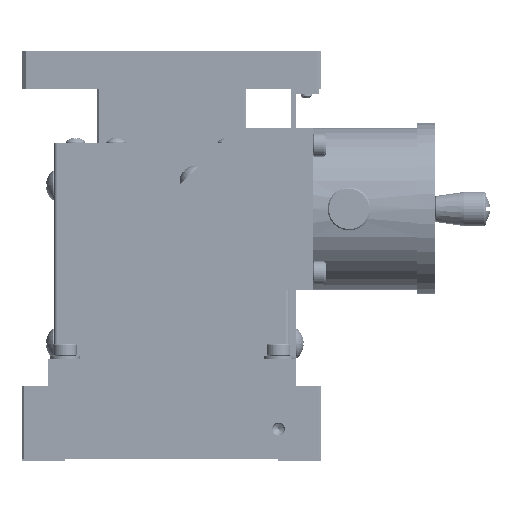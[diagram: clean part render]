
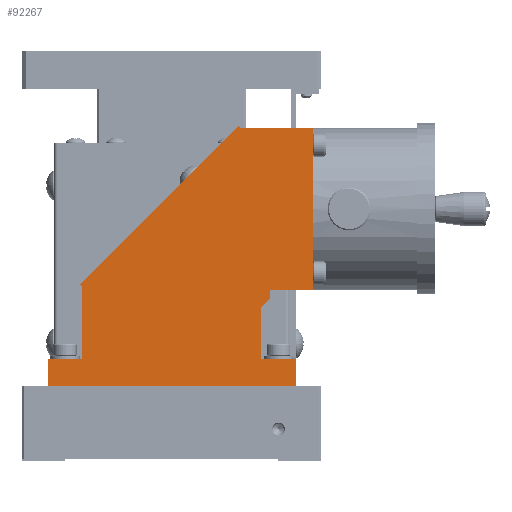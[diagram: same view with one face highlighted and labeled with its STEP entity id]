
A CAD part, left-side view. The second image highlights one B-rep face of the part: STEP entity #92267.
In plain terms, the highlighted planar face has unit normal (-1, 0, 0) as drawn and (1, 0, 0) by its records, which use the part's own axes.
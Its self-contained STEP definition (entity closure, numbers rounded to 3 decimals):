
#123 = LINE ( 'NONE', #128, #11075 ) ;
#128 = CARTESIAN_POINT ( 'NONE',  ( 79.8, -29., -24. ) ) ;
#145 = CARTESIAN_POINT ( 'NONE',  ( 79.8, 21., -36. ) ) ;
#161 = DIRECTION ( 'NONE',  ( 0., 1., 0. ) ) ;
#168 = LINE ( 'NONE', #145, #11102 ) ;
#183 = DIRECTION ( 'NONE',  ( 0., 0., -1. ) ) ;
#206 = CARTESIAN_POINT ( 'NONE',  ( 79.8, 21., -41. ) ) ;
#217 = LINE ( 'NONE', #206, #11023 ) ;
#254 = DIRECTION ( 'NONE',  ( 0., 0.707, -0.707 ) ) ;
#280 = CARTESIAN_POINT ( 'NONE',  ( 79.8, 21.354, -41.354 ) ) ;
#283 = LINE ( 'NONE', #280, #10984 ) ;
#323 = DIRECTION ( 'NONE',  ( 0., -0.707, -0.707 ) ) ;
#353 = LINE ( 'NONE', #358, #10935 ) ;
#358 = CARTESIAN_POINT ( 'NONE',  ( 79.8, -15.628, -78.335 ) ) ;
#394 = DIRECTION ( 'NONE',  ( 0., -0.707, 0.707 ) ) ;
#481 = LINE ( 'NONE', #486, #10874 ) ;
#486 = CARTESIAN_POINT ( 'NONE',  ( 79.8, -19.5, -81.5 ) ) ;
#489 = DIRECTION ( 'NONE',  ( 0., -0.707, -0.707 ) ) ;
#494 = CARTESIAN_POINT ( 'NONE',  ( 79.8, -23., -78. ) ) ;
#519 = LINE ( 'NONE', #494, #10839 ) ;
#540 = CARTESIAN_POINT ( 'NONE',  ( 79.8, -14., -78. ) ) ;
#556 = LINE ( 'NONE', #540, #10822 ) ;
#559 = DIRECTION ( 'NONE',  ( 0., -1., 0. ) ) ;
#582 = DIRECTION ( 'NONE',  ( 0., -1., 0. ) ) ;
#699 = CARTESIAN_POINT ( 'NONE',  ( 79.8, -33., -40. ) ) ;
#732 = LINE ( 'NONE', #699, #10736 ) ;
#746 = DIRECTION ( 'NONE',  ( 0., 1., 0. ) ) ;
#760 = LINE ( 'NONE', #766, #10705 ) ;
#766 = CARTESIAN_POINT ( 'NONE',  ( 79.8, -23., -78. ) ) ;
#769 = DIRECTION ( 'NONE',  ( 0., 0., 1. ) ) ;
#840 = LINE ( 'NONE', #881, #10619 ) ;
#881 = CARTESIAN_POINT ( 'NONE',  ( 79.8, -23., -38. ) ) ;
#883 = DIRECTION ( 'NONE',  ( 0., -0.707, -0.707 ) ) ;
#885 = CARTESIAN_POINT ( 'NONE',  ( 79.8, -21., -24. ) ) ;
#888 = LINE ( 'NONE', #885, #10614 ) ;
#909 = DIRECTION ( 'NONE',  ( 0., 0., -1. ) ) ;
#1026 = LINE ( 'NONE', #1040, #10528 ) ;
#1040 = CARTESIAN_POINT ( 'NONE',  ( 79.8, -29., -24. ) ) ;
#1043 = DIRECTION ( 'NONE',  ( 0., 1., 0. ) ) ;
#1097 = LINE ( 'NONE', #1115, #10487 ) ;
#1115 = CARTESIAN_POINT ( 'NONE',  ( 79.8, -33., -78. ) ) ;
#1118 = DIRECTION ( 'NONE',  ( 0., 0., 1. ) ) ;
#5701 = EDGE_CURVE ( 'NONE', #138544, #138609, #98469, .T. ) ;
#5703 = EDGE_CURVE ( 'NONE', #138609, #138614, #98493, .T. ) ;
#5705 = EDGE_CURVE ( 'NONE', #138577, #138614, #98514, .T. ) ;
#5935 = EDGE_CURVE ( 'NONE', #138575, #138577, #123, .T. ) ;
#5937 = EDGE_CURVE ( 'NONE', #138575, #138576, #168, .T. ) ;
#5943 = EDGE_CURVE ( 'NONE', #138576, #138572, #217, .T. ) ;
#5949 = EDGE_CURVE ( 'NONE', #138572, #138570, #283, .T. ) ;
#5955 = EDGE_CURVE ( 'NONE', #138570, #138566, #353, .T. ) ;
#5963 = EDGE_CURVE ( 'NONE', #138566, #138567, #481, .T. ) ;
#5969 = EDGE_CURVE ( 'NONE', #138568, #138491, #519, .T. ) ;
#5971 = EDGE_CURVE ( 'NONE', #138567, #138568, #556, .T. ) ;
#5985 = EDGE_CURVE ( 'NONE', #138552, #138562, #732, .T. ) ;
#5987 = EDGE_CURVE ( 'NONE', #138562, #138557, #760, .T. ) ;
#5998 = EDGE_CURVE ( 'NONE', #138553, #138557, #840, .T. ) ;
#6001 = EDGE_CURVE ( 'NONE', #138441, #138553, #888, .T. ) ;
#6018 = EDGE_CURVE ( 'NONE', #138544, #138441, #1026, .T. ) ;
#6028 = EDGE_CURVE ( 'NONE', #138491, #138552, #1097, .T. ) ;
#10487 = VECTOR ( 'NONE', #1118, 1000. ) ;
#10528 = VECTOR ( 'NONE', #1043, 1000. ) ;
#10614 = VECTOR ( 'NONE', #909, 1000. ) ;
#10619 = VECTOR ( 'NONE', #883, 1000. ) ;
#10705 = VECTOR ( 'NONE', #769, 1000. ) ;
#10736 = VECTOR ( 'NONE', #746, 1000. ) ;
#10822 = VECTOR ( 'NONE', #582, 1000. ) ;
#10839 = VECTOR ( 'NONE', #559, 1000. ) ;
#10874 = VECTOR ( 'NONE', #489, 1000. ) ;
#10935 = VECTOR ( 'NONE', #394, 1000. ) ;
#10984 = VECTOR ( 'NONE', #323, 1000. ) ;
#11023 = VECTOR ( 'NONE', #254, 1000. ) ;
#11075 = VECTOR ( 'NONE', #161, 1000. ) ;
#11102 = VECTOR ( 'NONE', #183, 1000. ) ;
#39298 = PLANE ( 'NONE',  #40567 ) ;
#39304 = CARTESIAN_POINT ( 'NONE',  ( 79.8, -23., -78. ) ) ;
#39310 = FACE_OUTER_BOUND ( 'NONE', #63718, .T. ) ;
#39314 = DIRECTION ( 'NONE',  ( -1., 0., 0. ) ) ;
#39316 = DIRECTION ( 'NONE',  ( 0., -1., 0. ) ) ;
#40567 = AXIS2_PLACEMENT_3D ( 'NONE', #39304, #39314, #39316 ) ;
#52161 = CARTESIAN_POINT ( 'NONE',  ( 79.8, -21., -24. ) ) ;
#52211 = CARTESIAN_POINT ( 'NONE',  ( 79.8, -33., -78. ) ) ;
#52264 = CARTESIAN_POINT ( 'NONE',  ( 79.8, -29., -24. ) ) ;
#52272 = CARTESIAN_POINT ( 'NONE',  ( 79.8, -33., -40. ) ) ;
#52273 = CARTESIAN_POINT ( 'NONE',  ( 79.8, -21., -36. ) ) ;
#52277 = CARTESIAN_POINT ( 'NONE',  ( 79.8, -23., -38. ) ) ;
#52282 = CARTESIAN_POINT ( 'NONE',  ( 79.8, -23., -40. ) ) ;
#52286 = CARTESIAN_POINT ( 'NONE',  ( 79.8, -15.982, -77.982 ) ) ;
#52287 = CARTESIAN_POINT ( 'NONE',  ( 79.8, -16., -78. ) ) ;
#52288 = CARTESIAN_POINT ( 'NONE',  ( 79.8, -23., -78. ) ) ;
#52290 = CARTESIAN_POINT ( 'NONE',  ( 79.8, -15.628, -78.335 ) ) ;
#52292 = CARTESIAN_POINT ( 'NONE',  ( 79.8, 21.354, -41.354 ) ) ;
#52295 = CARTESIAN_POINT ( 'NONE',  ( 79.8, 21., -24. ) ) ;
#52296 = CARTESIAN_POINT ( 'NONE',  ( 79.8, 21., -41. ) ) ;
#52297 = CARTESIAN_POINT ( 'NONE',  ( 79.8, 29., -24. ) ) ;
#52329 = CARTESIAN_POINT ( 'NONE',  ( 79.8, -29., -17.5 ) ) ;
#52334 = CARTESIAN_POINT ( 'NONE',  ( 79.8, 29., -17.5 ) ) ;
#63718 = EDGE_LOOP ( 'NONE', ( #162323, #162324, #162326, #162328, #162330, #162332, #162334, #162336, #162337, #162339, #162341, #162343, #162345, #162347, #162349, #162350, #162352 ) ) ;
#92267 = ADVANCED_FACE ( 'NONE', ( #39310 ), #39298, .F. ) ;
#98447 = CARTESIAN_POINT ( 'NONE',  ( 79.8, -29., -24. ) ) ;
#98469 = LINE ( 'NONE', #98447, #124034 ) ;
#98480 = CARTESIAN_POINT ( 'NONE',  ( 79.8, -29., -17.5 ) ) ;
#98483 = DIRECTION ( 'NONE',  ( 0., 0., 1. ) ) ;
#98486 = CARTESIAN_POINT ( 'NONE',  ( 79.8, 29., -24. ) ) ;
#98493 = LINE ( 'NONE', #98480, #124022 ) ;
#98506 = DIRECTION ( 'NONE',  ( 0., 1., 0. ) ) ;
#98514 = LINE ( 'NONE', #98486, #124020 ) ;
#98528 = DIRECTION ( 'NONE',  ( 0., 0., 1. ) ) ;
#124020 = VECTOR ( 'NONE', #98528, 1000. ) ;
#124022 = VECTOR ( 'NONE', #98506, 1000. ) ;
#124034 = VECTOR ( 'NONE', #98483, 1000. ) ;
#138441 = VERTEX_POINT ( 'NONE', #52161 ) ;
#138491 = VERTEX_POINT ( 'NONE', #52211 ) ;
#138544 = VERTEX_POINT ( 'NONE', #52264 ) ;
#138552 = VERTEX_POINT ( 'NONE', #52272 ) ;
#138553 = VERTEX_POINT ( 'NONE', #52273 ) ;
#138557 = VERTEX_POINT ( 'NONE', #52277 ) ;
#138562 = VERTEX_POINT ( 'NONE', #52282 ) ;
#138566 = VERTEX_POINT ( 'NONE', #52286 ) ;
#138567 = VERTEX_POINT ( 'NONE', #52287 ) ;
#138568 = VERTEX_POINT ( 'NONE', #52288 ) ;
#138570 = VERTEX_POINT ( 'NONE', #52290 ) ;
#138572 = VERTEX_POINT ( 'NONE', #52292 ) ;
#138575 = VERTEX_POINT ( 'NONE', #52295 ) ;
#138576 = VERTEX_POINT ( 'NONE', #52296 ) ;
#138577 = VERTEX_POINT ( 'NONE', #52297 ) ;
#138609 = VERTEX_POINT ( 'NONE', #52329 ) ;
#138614 = VERTEX_POINT ( 'NONE', #52334 ) ;
#162323 = ORIENTED_EDGE ( 'NONE', *, *, #5937, .F. ) ;
#162324 = ORIENTED_EDGE ( 'NONE', *, *, #5935, .T. ) ;
#162326 = ORIENTED_EDGE ( 'NONE', *, *, #5705, .T. ) ;
#162328 = ORIENTED_EDGE ( 'NONE', *, *, #5703, .F. ) ;
#162330 = ORIENTED_EDGE ( 'NONE', *, *, #5701, .F. ) ;
#162332 = ORIENTED_EDGE ( 'NONE', *, *, #6018, .T. ) ;
#162334 = ORIENTED_EDGE ( 'NONE', *, *, #6001, .T. ) ;
#162336 = ORIENTED_EDGE ( 'NONE', *, *, #5998, .T. ) ;
#162337 = ORIENTED_EDGE ( 'NONE', *, *, #5987, .F. ) ;
#162339 = ORIENTED_EDGE ( 'NONE', *, *, #5985, .F. ) ;
#162341 = ORIENTED_EDGE ( 'NONE', *, *, #6028, .F. ) ;
#162343 = ORIENTED_EDGE ( 'NONE', *, *, #5969, .F. ) ;
#162345 = ORIENTED_EDGE ( 'NONE', *, *, #5971, .F. ) ;
#162347 = ORIENTED_EDGE ( 'NONE', *, *, #5963, .F. ) ;
#162349 = ORIENTED_EDGE ( 'NONE', *, *, #5955, .F. ) ;
#162350 = ORIENTED_EDGE ( 'NONE', *, *, #5949, .F. ) ;
#162352 = ORIENTED_EDGE ( 'NONE', *, *, #5943, .F. ) ;
